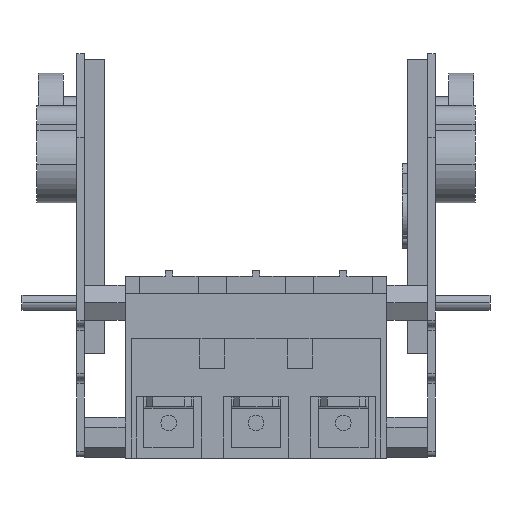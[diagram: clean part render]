
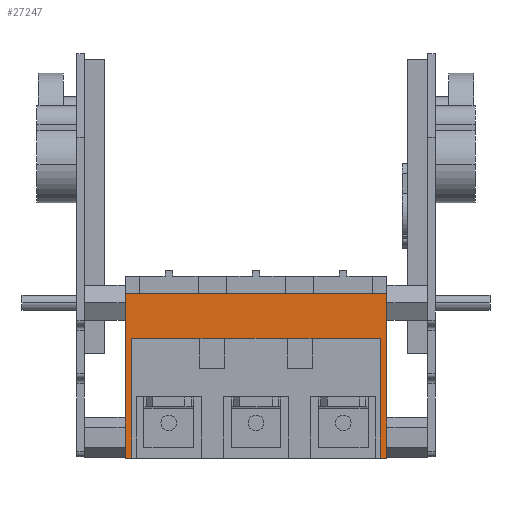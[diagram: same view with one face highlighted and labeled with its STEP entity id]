
A CAD part, front view. The second image highlights one B-rep face of the part: STEP entity #27247.
In plain terms, the highlighted planar face has unit normal (0, -1, 0).
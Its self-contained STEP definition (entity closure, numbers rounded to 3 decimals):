
#610 = AXIS2_PLACEMENT_3D ( 'NONE', #3855, #12105, #6020 ) ;
#822 = VECTOR ( 'NONE', #7201, 1000. ) ;
#1069 = EDGE_CURVE ( 'NONE', #22087, #23803, #14822, .T. ) ;
#2009 = ORIENTED_EDGE ( 'NONE', *, *, #11997, .F. ) ;
#2575 = ORIENTED_EDGE ( 'NONE', *, *, #11435, .T. ) ;
#2581 = DIRECTION ( 'NONE',  ( -1., 0., 0. ) ) ;
#2958 = VERTEX_POINT ( 'NONE', #8554 ) ;
#2970 = CARTESIAN_POINT ( 'NONE',  ( 52.5, -84.5, -75.3 ) ) ;
#3232 = EDGE_CURVE ( 'NONE', #23973, #22228, #17211, .T. ) ;
#3300 = CARTESIAN_POINT ( 'NONE',  ( 49.8, -84.5, -27.3 ) ) ;
#3601 = CARTESIAN_POINT ( 'NONE',  ( -52.5, -84.5, -9.3 ) ) ;
#3806 = CARTESIAN_POINT ( 'NONE',  ( 49.8, -84.5, -75.3 ) ) ;
#3855 = CARTESIAN_POINT ( 'NONE',  ( 52.5, -84.5, -9.3 ) ) ;
#4165 = CARTESIAN_POINT ( 'NONE',  ( 52.5, -84.5, -9.3 ) ) ;
#4405 = VECTOR ( 'NONE', #8437, 1000. ) ;
#4428 = VECTOR ( 'NONE', #13855, 1000. ) ;
#4445 = CARTESIAN_POINT ( 'NONE',  ( -49.8, -84.5, -27.3 ) ) ;
#4845 = EDGE_CURVE ( 'NONE', #22125, #24791, #6840, .T. ) ;
#6020 = DIRECTION ( 'NONE',  ( -1., 0., 0. ) ) ;
#6840 = LINE ( 'NONE', #3601, #21881 ) ;
#7171 = DIRECTION ( 'NONE',  ( 1., 0., 0. ) ) ;
#7201 = DIRECTION ( 'NONE',  ( 1., 0., 0. ) ) ;
#7467 = VECTOR ( 'NONE', #7171, 1000. ) ;
#7722 = DIRECTION ( 'NONE',  ( 0., 0., -1. ) ) ;
#8269 = CARTESIAN_POINT ( 'NONE',  ( -52.5, -84.5, -9.3 ) ) ;
#8315 = CARTESIAN_POINT ( 'NONE',  ( -49.8, -84.5, -75.3 ) ) ;
#8437 = DIRECTION ( 'NONE',  ( 0., 0., -1. ) ) ;
#8554 = CARTESIAN_POINT ( 'NONE',  ( 52.5, -84.5, -75.3 ) ) ;
#8743 = ORIENTED_EDGE ( 'NONE', *, *, #14417, .T. ) ;
#9345 = LINE ( 'NONE', #19168, #11694 ) ;
#9894 = ORIENTED_EDGE ( 'NONE', *, *, #21102, .F. ) ;
#10678 = ORIENTED_EDGE ( 'NONE', *, *, #16576, .T. ) ;
#11435 = EDGE_CURVE ( 'NONE', #12684, #22125, #22233, .T. ) ;
#11694 = VECTOR ( 'NONE', #27718, 1000. ) ;
#11884 = VECTOR ( 'NONE', #2581, 1000. ) ;
#11997 = EDGE_CURVE ( 'NONE', #12684, #2958, #23157, .T. ) ;
#12105 = DIRECTION ( 'NONE',  ( 0., 1., 0. ) ) ;
#12684 = VERTEX_POINT ( 'NONE', #15345 ) ;
#13855 = DIRECTION ( 'NONE',  ( 0., 0., 1. ) ) ;
#14417 = EDGE_CURVE ( 'NONE', #22087, #2958, #19489, .T. ) ;
#14822 = LINE ( 'NONE', #26668, #4428 ) ;
#15225 = CARTESIAN_POINT ( 'NONE',  ( 52.5, -84.5, -9.3 ) ) ;
#15345 = CARTESIAN_POINT ( 'NONE',  ( 52.5, -84.5, -9.3 ) ) ;
#16576 = EDGE_CURVE ( 'NONE', #24791, #23973, #17877, .T. ) ;
#16650 = PLANE ( 'NONE',  #610 ) ;
#17211 = LINE ( 'NONE', #18525, #22614 ) ;
#17877 = LINE ( 'NONE', #26411, #822 ) ;
#18525 = CARTESIAN_POINT ( 'NONE',  ( -49.8, -84.5, -182.808 ) ) ;
#18540 = EDGE_LOOP ( 'NONE', ( #2575, #22972, #10678, #25281, #9894, #22528, #8743, #2009 ) ) ;
#18678 = CARTESIAN_POINT ( 'NONE',  ( -52.5, -84.5, -75.3 ) ) ;
#19168 = CARTESIAN_POINT ( 'NONE',  ( 52.5, -84.5, -27.3 ) ) ;
#19489 = LINE ( 'NONE', #2970, #7467 ) ;
#20768 = DIRECTION ( 'NONE',  ( 0., 0., 1. ) ) ;
#21102 = EDGE_CURVE ( 'NONE', #23803, #22228, #9345, .T. ) ;
#21881 = VECTOR ( 'NONE', #7722, 1000. ) ;
#22087 = VERTEX_POINT ( 'NONE', #3806 ) ;
#22125 = VERTEX_POINT ( 'NONE', #8269 ) ;
#22228 = VERTEX_POINT ( 'NONE', #4445 ) ;
#22233 = LINE ( 'NONE', #15225, #11884 ) ;
#22528 = ORIENTED_EDGE ( 'NONE', *, *, #1069, .F. ) ;
#22614 = VECTOR ( 'NONE', #20768, 1000. ) ;
#22972 = ORIENTED_EDGE ( 'NONE', *, *, #4845, .T. ) ;
#23157 = LINE ( 'NONE', #4165, #4405 ) ;
#23423 = FACE_OUTER_BOUND ( 'NONE', #18540, .T. ) ;
#23803 = VERTEX_POINT ( 'NONE', #3300 ) ;
#23973 = VERTEX_POINT ( 'NONE', #8315 ) ;
#24791 = VERTEX_POINT ( 'NONE', #18678 ) ;
#25281 = ORIENTED_EDGE ( 'NONE', *, *, #3232, .T. ) ;
#26411 = CARTESIAN_POINT ( 'NONE',  ( -49.8, -84.5, -75.3 ) ) ;
#26668 = CARTESIAN_POINT ( 'NONE',  ( 49.8, -84.5, -182.808 ) ) ;
#27247 = ADVANCED_FACE ( 'NONE', ( #23423 ), #16650, .F. ) ;
#27718 = DIRECTION ( 'NONE',  ( -1., 0., 0. ) ) ;
